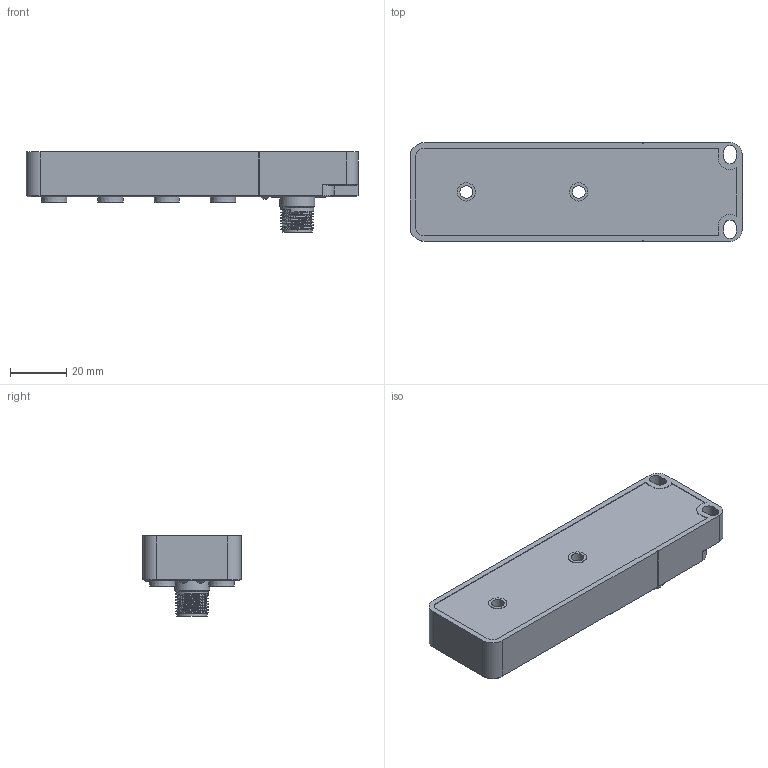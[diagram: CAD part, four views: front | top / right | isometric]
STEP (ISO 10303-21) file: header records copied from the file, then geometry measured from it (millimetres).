
FILE_DESCRIPTION(/* description */ (''),/* implementation_level */ '2;1');
FILE_NAME(/* name */ 'D8M8-3S-M12.stp',/* time_stamp */ '2022-08-27T13:37:08+08:00',/* author */ (''),/* organization */ (''),/* preprocessor_version */ 'ST-DEVELOPER v16.7',/* originating_system */ 'SIEMENS PLM Software NX 12.0',/* authorisation */ '');
FILE_SCHEMA (('AP203_CONFIGURATION_CONTROLLED_3D_DESIGN_OF_MECHANICAL_PARTS_AND_ASSEMBLIES_MIM_LF { 1 0 10303 403 2 1 2}'));
Products named in the file (1): Admi1AF0AE389dw2
Bounding box: 118 x 35 x 28.5 mm (x, y, z)
Volume: 3899.9 mm3; surface area: 28202.6 mm2
Topology: 26 solids, 27 shells, 1296 faces, 3385 edges, 2243 vertices
Faces by surface type: plane 764, cylinder 320, cone 101, bspline 50, extrusion 23, sphere 21, torus 17
Full cylindrical faces by diameter (mm): 0.5 x12, 0.9 x12, 1 x36, 1.1 x24, 1.4 x24, 1.5 x24, 4.5 x2, 5.7 x8, 6.5 x4, 7 x2, 7.9 x40, 9.5 x1, 11.7 x7, 12.5 x1, 16 x1
Entity records: 49225 total; most frequent: CARTESIAN_POINT 20894, DIRECTION 5752, ORIENTED_EDGE 5442, EDGE_CURVE 2721, AXIS2_PLACEMENT_3D 2049, VERTEX_POINT 1913, EDGE_LOOP 1688, VECTOR 1654
